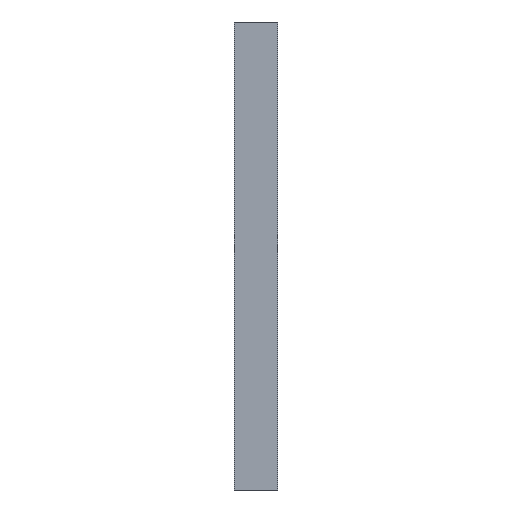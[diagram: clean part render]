
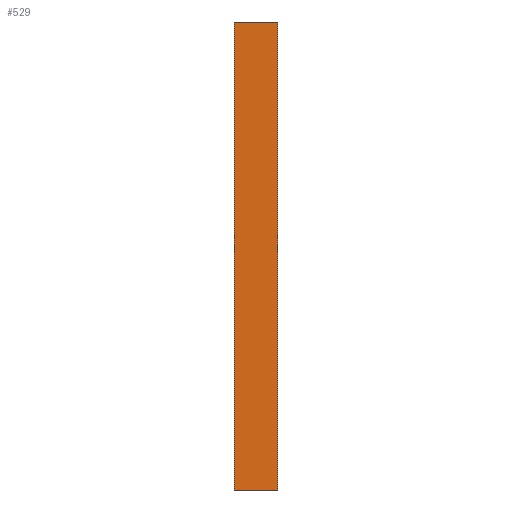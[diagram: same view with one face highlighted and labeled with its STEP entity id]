
A CAD part, left-side view. The second image highlights one B-rep face of the part: STEP entity #529.
In plain terms, the highlighted planar face has unit normal (-1, 0, 0).
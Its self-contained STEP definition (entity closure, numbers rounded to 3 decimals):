
#21=PLANE('',#601);
#44=FACE_OUTER_BOUND('',#72,.T.);
#72=EDGE_LOOP('',(#424,#425,#426,#427));
#99=LINE('',#838,#151);
#120=LINE('',#895,#172);
#121=LINE('',#898,#173);
#122=LINE('',#899,#174);
#151=VECTOR('',#665,10.);
#172=VECTOR('',#726,10.);
#173=VECTOR('',#729,10.);
#174=VECTOR('',#730,10.);
#241=VERTEX_POINT('',#835);
#242=VERTEX_POINT('',#837);
#257=VERTEX_POINT('',#891);
#259=VERTEX_POINT('',#897);
#294=EDGE_CURVE('',#242,#241,#99,.T.);
#323=EDGE_CURVE('',#242,#257,#120,.T.);
#324=EDGE_CURVE('',#259,#241,#121,.T.);
#325=EDGE_CURVE('',#259,#257,#122,.T.);
#424=ORIENTED_EDGE('',*,*,#323,.F.);
#425=ORIENTED_EDGE('',*,*,#294,.T.);
#426=ORIENTED_EDGE('',*,*,#324,.F.);
#427=ORIENTED_EDGE('',*,*,#325,.T.);
#529=ADVANCED_FACE('',(#44),#21,.T.);
#601=AXIS2_PLACEMENT_3D('',#896,#727,#728);
#665=DIRECTION('',(0.,-1.,0.));
#726=DIRECTION('',(0.,0.,1.));
#727=DIRECTION('center_axis',(-1.,0.,0.));
#728=DIRECTION('ref_axis',(0.,0.,1.));
#729=DIRECTION('',(0.,0.,-1.));
#730=DIRECTION('',(0.,1.,0.));
#835=CARTESIAN_POINT('',(-2.,-1.526,0.));
#837=CARTESIAN_POINT('',(-2.,231.374,0.));
#838=CARTESIAN_POINT('',(-2.,231.833,0.));
#891=CARTESIAN_POINT('',(-2.,231.374,2500.));
#895=CARTESIAN_POINT('',(-2.,231.374,0.));
#896=CARTESIAN_POINT('Origin',(-2.,-2.035,0.));
#897=CARTESIAN_POINT('',(-2.,-1.526,2500.));
#898=CARTESIAN_POINT('',(-2.,-1.526,0.));
#899=CARTESIAN_POINT('',(-2.,231.833,2500.));
